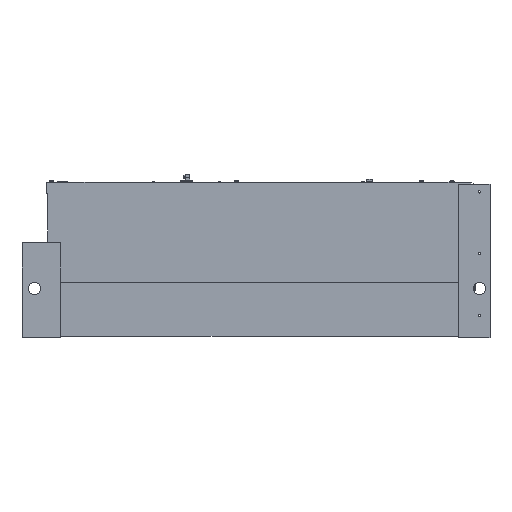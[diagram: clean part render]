
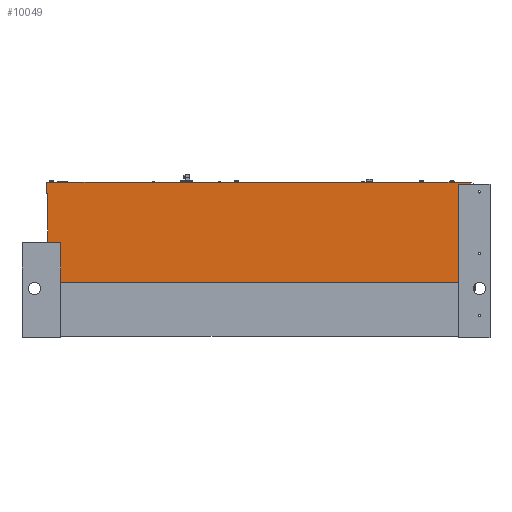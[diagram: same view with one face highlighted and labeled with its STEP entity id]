
A CAD part, left-side view. The second image highlights one B-rep face of the part: STEP entity #10049.
In plain terms, the highlighted planar face has unit normal (-1, 0, 0).
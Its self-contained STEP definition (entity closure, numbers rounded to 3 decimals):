
#393=DIRECTION('',(0.,0.,-1.));
#394=VECTOR('',#393,251.6);
#395=CARTESIAN_POINT('',(3.9,1251.6,407.15));
#396=LINE('',#395,#394);
#737=DIRECTION('',(0.,1.,0.));
#738=VECTOR('',#737,23.2);
#739=CARTESIAN_POINT('',(3.9,52.4,434.));
#740=LINE('',#739,#738);
#741=DIRECTION('',(0.,-1.,0.));
#742=VECTOR('',#741,1090.2);
#743=CARTESIAN_POINT('',(3.9,1253.2,438.75));
#744=LINE('',#743,#742);
#745=DIRECTION('',(0.,0.,-1.));
#746=VECTOR('',#745,1.);
#747=CARTESIAN_POINT('',(3.9,163.,438.75));
#748=LINE('',#747,#746);
#749=DIRECTION('',(0.,1.,0.));
#750=VECTOR('',#749,0.8);
#751=CARTESIAN_POINT('',(3.9,162.2,437.75));
#752=LINE('',#751,#750);
#753=DIRECTION('',(0.,0.,-1.));
#754=VECTOR('',#753,1.);
#755=CARTESIAN_POINT('',(3.9,162.2,438.75));
#756=LINE('',#755,#754);
#757=DIRECTION('',(0.,-1.,0.));
#758=VECTOR('',#757,109.8);
#759=CARTESIAN_POINT('',(3.9,162.2,438.75));
#760=LINE('',#759,#758);
#769=DIRECTION('',(0.,0.,1.));
#770=VECTOR('',#769,4.75);
#771=CARTESIAN_POINT('',(3.9,52.4,434.));
#772=LINE('',#771,#770);
#4389=DIRECTION('',(0.,1.,0.));
#4390=VECTOR('',#4389,14.4);
#4391=CARTESIAN_POINT('',(3.9,75.6,434.));
#4392=LINE('',#4391,#4390);
#4695=DIRECTION('',(0.,0.,-1.));
#4696=VECTOR('',#4695,278.45);
#4697=CARTESIAN_POINT('',(3.9,90.,434.));
#4698=LINE('',#4697,#4696);
#4815=DIRECTION('',(0.,-1.,0.));
#4816=VECTOR('',#4815,1161.6);
#4817=CARTESIAN_POINT('',(3.9,1251.6,155.55));
#4818=LINE('',#4817,#4816);
#6687=DIRECTION('',(0.,0.,-1.));
#6688=VECTOR('',#6687,31.6);
#6689=CARTESIAN_POINT('',(3.9,1253.2,438.75));
#6690=LINE('',#6689,#6688);
#6695=DIRECTION('',(0.,-1.,0.));
#6696=VECTOR('',#6695,1.6);
#6697=CARTESIAN_POINT('',(3.9,1253.2,407.15));
#6698=LINE('',#6697,#6696);
#7112=CARTESIAN_POINT('',(3.9,1253.2,438.75));
#7114=VERTEX_POINT('',#7112);
#7487=CARTESIAN_POINT('',(3.9,1253.2,407.15));
#7488=VERTEX_POINT('',#7487);
#7491=CARTESIAN_POINT('',(3.9,1251.6,407.15));
#7492=VERTEX_POINT('',#7491);
#7495=CARTESIAN_POINT('',(3.9,1251.6,155.55));
#7496=VERTEX_POINT('',#7495);
#7523=CARTESIAN_POINT('',(3.9,90.,155.55));
#7524=VERTEX_POINT('',#7523);
#7911=CARTESIAN_POINT('',(3.9,90.,434.));
#7913=VERTEX_POINT('',#7911);
#7915=CARTESIAN_POINT('',(3.9,52.4,438.75));
#7917=VERTEX_POINT('',#7915);
#8111=CARTESIAN_POINT('',(3.9,162.2,438.75));
#8113=VERTEX_POINT('',#8111);
#8133=CARTESIAN_POINT('',(3.9,163.,438.75));
#8134=VERTEX_POINT('',#8133);
#8135=CARTESIAN_POINT('',(3.9,162.2,437.75));
#8136=CARTESIAN_POINT('',(3.9,163.,437.75));
#8137=VERTEX_POINT('',#8135);
#8138=VERTEX_POINT('',#8136);
#8160=CARTESIAN_POINT('',(3.9,75.6,434.));
#8162=VERTEX_POINT('',#8160);
#8167=CARTESIAN_POINT('',(3.9,52.4,434.));
#8169=VERTEX_POINT('',#8167);
#10017=CARTESIAN_POINT('',(3.9,1253.2,438.75));
#10018=DIRECTION('',(1.,0.,0.));
#10019=DIRECTION('',(0.,0.,-1.));
#10020=AXIS2_PLACEMENT_3D('',#10017,#10018,#10019);
#10021=PLANE('',#10020);
#10023=ORIENTED_EDGE('',*,*,#10022,.T.);
#10025=ORIENTED_EDGE('',*,*,#10024,.T.);
#10027=ORIENTED_EDGE('',*,*,#10026,.T.);
#10029=ORIENTED_EDGE('',*,*,#10028,.F.);
#10030=ORIENTED_EDGE('',*,*,#9245,.F.);
#10032=ORIENTED_EDGE('',*,*,#10031,.F.);
#10034=ORIENTED_EDGE('',*,*,#10033,.F.);
#10036=ORIENTED_EDGE('',*,*,#10035,.T.);
#10038=ORIENTED_EDGE('',*,*,#10037,.T.);
#10040=ORIENTED_EDGE('',*,*,#10039,.F.);
#10042=ORIENTED_EDGE('',*,*,#10041,.F.);
#10044=ORIENTED_EDGE('',*,*,#10043,.T.);
#10046=ORIENTED_EDGE('',*,*,#10045,.F.);
#10047=EDGE_LOOP('',(#10023,#10025,#10027,#10029,#10030,#10032,#10034,#10036,
#10038,#10040,#10042,#10044,#10046));
#10048=FACE_OUTER_BOUND('',#10047,.F.);
#9245=EDGE_CURVE('',#7492,#7496,#396,.T.);
#10022=EDGE_CURVE('',#8169,#8162,#740,.T.);
#10024=EDGE_CURVE('',#8162,#7913,#4392,.T.);
#10026=EDGE_CURVE('',#7913,#7524,#4698,.T.);
#10028=EDGE_CURVE('',#7496,#7524,#4818,.T.);
#10031=EDGE_CURVE('',#7488,#7492,#6698,.T.);
#10033=EDGE_CURVE('',#7114,#7488,#6690,.T.);
#10035=EDGE_CURVE('',#7114,#8134,#744,.T.);
#10037=EDGE_CURVE('',#8134,#8138,#748,.T.);
#10039=EDGE_CURVE('',#8137,#8138,#752,.T.);
#10041=EDGE_CURVE('',#8113,#8137,#756,.T.);
#10043=EDGE_CURVE('',#8113,#7917,#760,.T.);
#10045=EDGE_CURVE('',#8169,#7917,#772,.T.);
#10049=ADVANCED_FACE('',(#10048),#10021,.F.);
